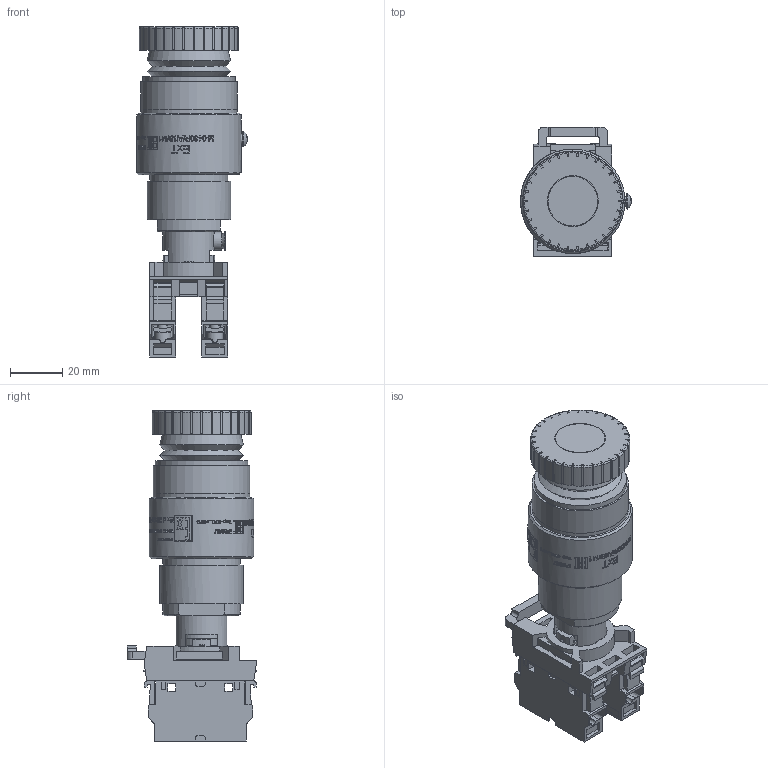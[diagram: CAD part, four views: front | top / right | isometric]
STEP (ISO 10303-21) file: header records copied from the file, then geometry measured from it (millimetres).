
FILE_DESCRIPTION((''),'2;1');
FILE_NAME('\\192.168.5.25\cortem_klient\INVENTOR БАЗА МОДЕЛЕЙ\Актуальная база моделей для отдела продаж\Элементы управления и индикации\КГВ11\КГВ11К.stp','2019-04-09T16:22:55',('A.S.Kozlov'),(''),'Autodesk Inventor 2012','Autodesk Inventor 2012','');
FILE_SCHEMA(('CONFIG_CONTROL_DESIGN'));
Length unit declared in the file: millimetre
Products named in the file (1): M-0430R_ABB_M1_Внешний контур_1
Bounding box: 42.43 x 49.65 x 126.6 mm (x, y, z)
Surface area: 33957.5 mm2 (no closed solid volume)
Topology: 0 solids, 94 shells, 663 faces, 3766 edges, 3103 vertices
Faces by surface type: plane 445, cylinder 152, torus 30, cone 26, bspline 8, sphere 2
Full cylindrical faces by diameter (mm): 3.75 x1, 4 x4, 6.2 x4, 6.5 x4, 7 x1, 12 x1, 14.3 x1, 15.8 x2, 19.8 x1, 29.75 x1, 32 x1, 35.5 x1, 37 x2, 40 x1
Entity records: 92014 total; most frequent: CARTESIAN_POINT 64407, ORIENTED_EDGE 5018, DIRECTION 4608, EDGE_CURVE 3707, VERTEX_POINT 3080, VECTOR 1856, LINE 1856, AXIS2_PLACEMENT_3D 1376
